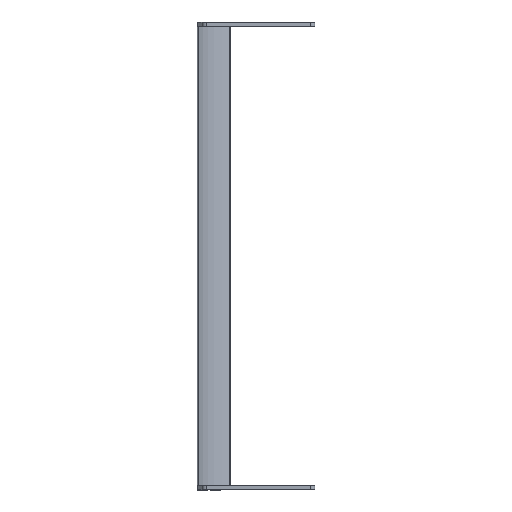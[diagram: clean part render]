
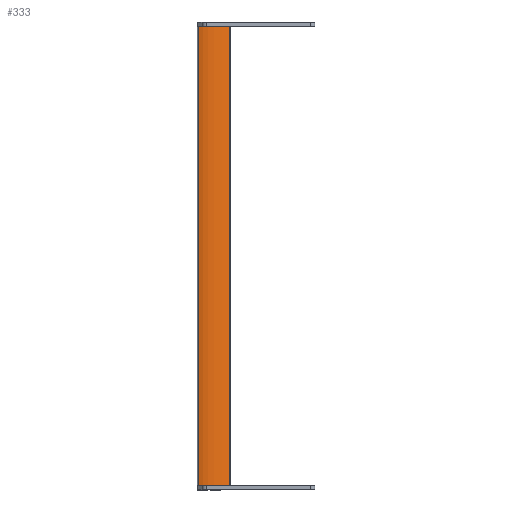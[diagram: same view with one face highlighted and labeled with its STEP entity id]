
A CAD part, left-side view. The second image highlights one B-rep face of the part: STEP entity #333.
In plain terms, the highlighted cylindrical face has radius 40.64 mm (diameter 81.28 mm), a partial arc.
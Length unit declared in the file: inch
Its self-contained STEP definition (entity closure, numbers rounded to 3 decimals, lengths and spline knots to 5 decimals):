
#40=CARTESIAN_POINT('',(-1.52,1.63,-7.118));
#41=DIRECTION('',(0.,0.,-1.));
#42=DIRECTION('',(0.914,-0.405,0.));
#43=AXIS2_PLACEMENT_3D('',#40,#41,#42);
#87=CARTESIAN_POINT('',(-1.52,1.63,7.118));
#88=DIRECTION('',(0.,0.,-1.));
#89=DIRECTION('',(0.914,-0.405,0.));
#90=AXIS2_PLACEMENT_3D('',#87,#88,#89);
#118=DIRECTION('',(0.,0.,1.));
#119=VECTOR('',#118,14.236);
#120=CARTESIAN_POINT('',(-1.00032,0.11675,-7.118));
#121=LINE('',#120,#119);
#122=DIRECTION('',(0.,0.,1.));
#123=VECTOR('',#122,14.236);
#124=CARTESIAN_POINT('',(-0.05742,0.98126,-7.118));
#125=LINE('',#124,#123);
#154=CARTESIAN_POINT('',(-0.05742,0.98126,-7.118));
#155=VERTEX_POINT('',#154);
#156=CARTESIAN_POINT('',(-1.00032,0.11675,-7.118));
#157=VERTEX_POINT('',#156);
#174=CARTESIAN_POINT('',(-0.05742,0.98126,7.118));
#175=VERTEX_POINT('',#174);
#176=CARTESIAN_POINT('',(-1.00032,0.11675,7.118));
#177=VERTEX_POINT('',#176);
#321=CARTESIAN_POINT('',(-1.52,1.63,-7.118));
#322=DIRECTION('',(0.,0.,1.));
#323=DIRECTION('',(1.,0.,0.));
#324=AXIS2_PLACEMENT_3D('',#321,#322,#323);
#325=CYLINDRICAL_SURFACE('',#324,1.6);
#326=ORIENTED_EDGE('',*,*,#191,.F.);
#328=ORIENTED_EDGE('',*,*,#327,.T.);
#329=ORIENTED_EDGE('',*,*,#247,.T.);
#330=ORIENTED_EDGE('',*,*,#314,.F.);
#331=EDGE_LOOP('',(#326,#328,#329,#330));
#332=FACE_OUTER_BOUND('',#331,.F.);
#44=CIRCLE('',#43,1.6);
#91=CIRCLE('',#90,1.6);
#191=EDGE_CURVE('',#155,#157,#44,.T.);
#247=EDGE_CURVE('',#175,#177,#91,.T.);
#314=EDGE_CURVE('',#157,#177,#121,.T.);
#327=EDGE_CURVE('',#155,#175,#125,.T.);
#333=ADVANCED_FACE('',(#332),#325,.F.);
